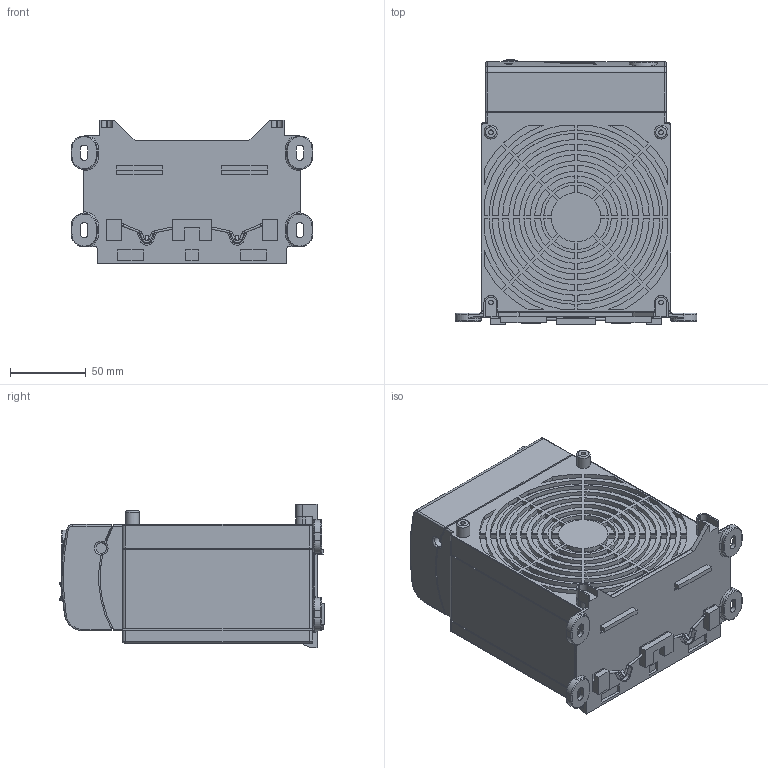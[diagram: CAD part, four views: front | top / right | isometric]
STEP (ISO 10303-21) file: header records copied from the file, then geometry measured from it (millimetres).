
FILE_DESCRIPTION(/* description */ (''),/* implementation_level */ '2;1');
FILE_NAME(/* name */ '2.stp',/* time_stamp */ '2024-12-04T09:36:18+08:00',/* author */ (''),/* organization */ (''),/* preprocessor_version */ 'ST-DEVELOPER v16.7',/* originating_system */ 'SIEMENS PLM Software NX 12.0',/* authorisation */ '');
FILE_SCHEMA (('AUTOMOTIVE_DESIGN { 1 0 10303 214 3 1 1 1 }'));
Length unit declared in the file: millimetre
Products named in the file (1): AdmiC30C400Awoew
Bounding box: 159 x 174.53 x 94.4 mm (x, y, z)
Volume: 1501349 mm3; surface area: 171726.2 mm2
Topology: 6 solids, 6 shells, 1632 faces, 4341 edges, 2854 vertices
Faces by surface type: plane 1122, cylinder 401, torus 63, cone 32, bspline 13, extrusion 1
Full cylindrical faces by diameter (mm): 1.5 x10, 2.48 x1, 3 x4, 4 x1, 7 x1, 9 x2, 9.999 x1, 10.5 x1, 11 x1, 11.6 x1, 12 x1, 20.366 x1
Entity records: 53989 total; most frequent: CARTESIAN_POINT 12580, ORIENTED_EDGE 8528, DIRECTION 8297, EDGE_CURVE 4264, VECTOR 3071, LINE 3070, VERTEX_POINT 2839, AXIS2_PLACEMENT_3D 2613
